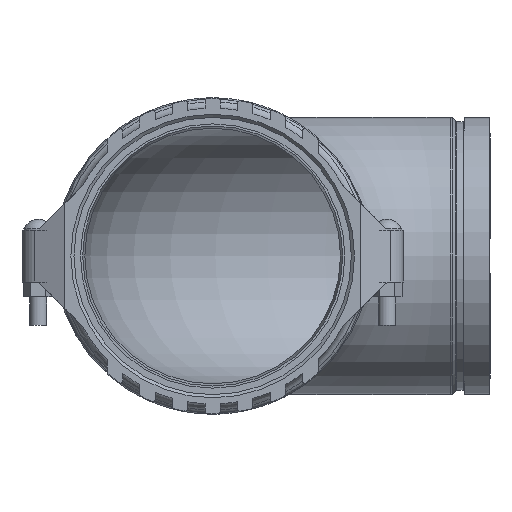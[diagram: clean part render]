
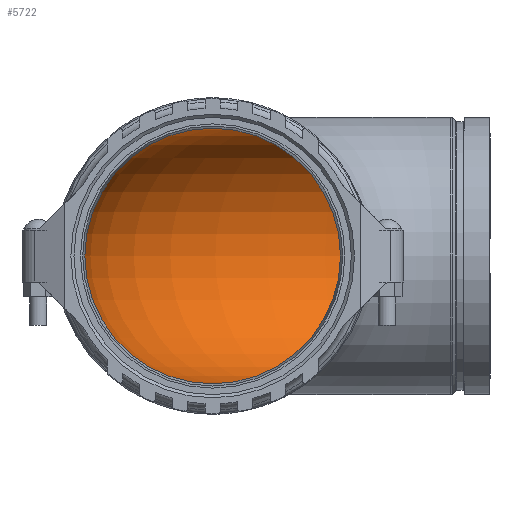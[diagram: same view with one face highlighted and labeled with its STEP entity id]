
A CAD part, left-side view. The second image highlights one B-rep face of the part: STEP entity #5722.
In plain terms, the highlighted toroidal (fillet/blend) face has major radius 347.98 mm and minor radius 187.325 mm.
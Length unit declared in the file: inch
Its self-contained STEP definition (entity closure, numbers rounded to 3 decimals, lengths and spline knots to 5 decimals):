
#284=TOROIDAL_SURFACE('',#6400,13.7,7.375);
#1304=FACE_OUTER_BOUND('',#1609,.T.);
#1609=EDGE_LOOP('',(#4927,#4928,#4929,#4930,#4931));
#1919=CIRCLE('',#6401,7.375);
#1920=CIRCLE('',#6402,6.325);
#1921=CIRCLE('',#6403,7.375);
#1922=CIRCLE('',#6404,7.375);
#2498=VERTEX_POINT('',#11844);
#2499=VERTEX_POINT('',#11846);
#2500=VERTEX_POINT('',#11848);
#3318=EDGE_CURVE('',#2498,#2498,#1919,.T.);
#3319=EDGE_CURVE('',#2498,#2499,#1920,.T.);
#3320=EDGE_CURVE('',#2499,#2500,#1921,.T.);
#3321=EDGE_CURVE('',#2500,#2499,#1922,.T.);
#4927=ORIENTED_EDGE('',*,*,#3318,.F.);
#4928=ORIENTED_EDGE('',*,*,#3319,.T.);
#4929=ORIENTED_EDGE('',*,*,#3320,.T.);
#4930=ORIENTED_EDGE('',*,*,#3321,.T.);
#4931=ORIENTED_EDGE('',*,*,#3319,.F.);
#5722=ADVANCED_FACE('',(#1304),#284,.F.);
#6400=AXIS2_PLACEMENT_3D('',#11843,#7885,#7886);
#6401=AXIS2_PLACEMENT_3D('',#11845,#7887,#7888);
#6402=AXIS2_PLACEMENT_3D('',#11847,#7889,#7890);
#6403=AXIS2_PLACEMENT_3D('',#11849,#7891,#7892);
#6404=AXIS2_PLACEMENT_3D('',#11850,#7893,#7894);
#7885=DIRECTION('center_axis',(0.,0.,-1.));
#7886=DIRECTION('ref_axis',(-1.,0.,0.));
#7887=DIRECTION('center_axis',(0.,1.,0.));
#7888=DIRECTION('ref_axis',(-1.,0.,0.));
#7889=DIRECTION('center_axis',(0.,0.,-1.));
#7890=DIRECTION('ref_axis',(-1.,0.,0.));
#7891=DIRECTION('center_axis',(1.,0.,0.));
#7892=DIRECTION('ref_axis',(0.,1.,0.));
#7893=DIRECTION('center_axis',(1.,0.,0.));
#7894=DIRECTION('ref_axis',(0.,1.,0.));
#11843=CARTESIAN_POINT('Origin',(13.7,-13.7,0.));
#11844=CARTESIAN_POINT('',(7.375,-13.7,0.));
#11845=CARTESIAN_POINT('Origin',(0.,-13.7,0.));
#11846=CARTESIAN_POINT('',(13.7,-7.375,0.));
#11847=CARTESIAN_POINT('Origin',(13.7,-13.7,0.));
#11848=CARTESIAN_POINT('',(13.7,0.,7.375));
#11849=CARTESIAN_POINT('Origin',(13.7,0.,0.));
#11850=CARTESIAN_POINT('Origin',(13.7,0.,0.));
